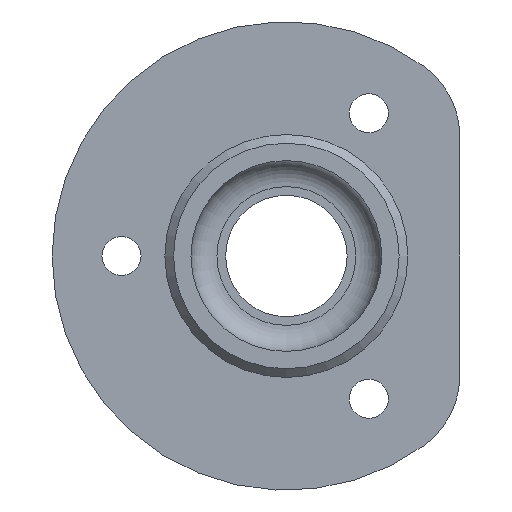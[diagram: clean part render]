
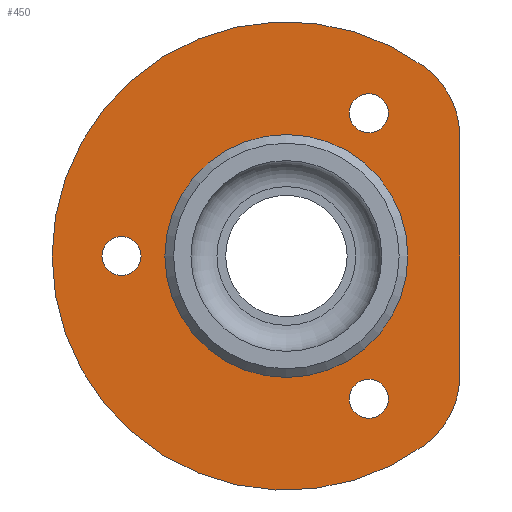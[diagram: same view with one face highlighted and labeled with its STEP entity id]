
A CAD part, left-side view. The second image highlights one B-rep face of the part: STEP entity #450.
In plain terms, the highlighted planar face has unit normal (-1, 0, 0).
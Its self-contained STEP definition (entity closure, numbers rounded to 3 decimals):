
#27=FACE_BOUND('',#157,.T.);
#28=FACE_BOUND('',#158,.T.);
#29=FACE_BOUND('',#159,.T.);
#30=FACE_BOUND('',#160,.T.);
#39=PLANE('',#543);
#51=LINE('',#796,#69);
#69=VECTOR('',#659,10.);
#117=FACE_OUTER_BOUND('',#156,.T.);
#156=EDGE_LOOP('',(#409,#410,#411,#412));
#157=EDGE_LOOP('',(#413));
#158=EDGE_LOOP('',(#414));
#159=EDGE_LOOP('',(#415));
#160=EDGE_LOOP('',(#416));
#179=CIRCLE('',#500,14.);
#190=CIRCLE('',#519,10.);
#191=CIRCLE('',#521,27.);
#192=CIRCLE('',#523,10.);
#195=CIRCLE('',#530,2.25);
#198=CIRCLE('',#536,2.25);
#201=CIRCLE('',#542,2.25);
#220=VERTEX_POINT('',#753);
#227=VERTEX_POINT('',#782);
#228=VERTEX_POINT('',#784);
#229=VERTEX_POINT('',#788);
#230=VERTEX_POINT('',#792);
#233=VERTEX_POINT('',#805);
#236=VERTEX_POINT('',#816);
#239=VERTEX_POINT('',#827);
#262=EDGE_CURVE('',#220,#220,#179,.T.);
#277=EDGE_CURVE('',#227,#228,#190,.T.);
#280=EDGE_CURVE('',#229,#227,#191,.T.);
#282=EDGE_CURVE('',#230,#229,#192,.T.);
#283=EDGE_CURVE('',#230,#228,#51,.T.);
#288=EDGE_CURVE('',#233,#233,#195,.T.);
#293=EDGE_CURVE('',#236,#236,#198,.T.);
#298=EDGE_CURVE('',#239,#239,#201,.T.);
#409=ORIENTED_EDGE('',*,*,#282,.F.);
#410=ORIENTED_EDGE('',*,*,#283,.T.);
#411=ORIENTED_EDGE('',*,*,#277,.F.);
#412=ORIENTED_EDGE('',*,*,#280,.F.);
#413=ORIENTED_EDGE('',*,*,#288,.T.);
#414=ORIENTED_EDGE('',*,*,#293,.T.);
#415=ORIENTED_EDGE('',*,*,#298,.T.);
#416=ORIENTED_EDGE('',*,*,#262,.T.);
#450=ADVANCED_FACE('',(#117,#27,#28,#29,#30),#39,.T.);
#500=AXIS2_PLACEMENT_3D('',#754,#602,#603);
#519=AXIS2_PLACEMENT_3D('',#785,#644,#645);
#521=AXIS2_PLACEMENT_3D('',#790,#650,#651);
#523=AXIS2_PLACEMENT_3D('',#794,#655,#656);
#530=AXIS2_PLACEMENT_3D('',#807,#672,#673);
#536=AXIS2_PLACEMENT_3D('',#818,#686,#687);
#542=AXIS2_PLACEMENT_3D('',#829,#700,#701);
#543=AXIS2_PLACEMENT_3D('',#830,#702,#703);
#602=DIRECTION('center_axis',(1.,0.,0.));
#603=DIRECTION('ref_axis',(0.,0.,-1.));
#644=DIRECTION('center_axis',(1.,0.,0.));
#645=DIRECTION('ref_axis',(0.,-0.891,0.454));
#650=DIRECTION('center_axis',(1.,0.,0.));
#651=DIRECTION('ref_axis',(0.,0.,-1.));
#655=DIRECTION('center_axis',(1.,0.,0.));
#656=DIRECTION('ref_axis',(0.,-0.891,-0.454));
#659=DIRECTION('',(0.,0.,1.));
#672=DIRECTION('center_axis',(1.,0.,0.));
#673=DIRECTION('ref_axis',(0.,-0.866,0.5));
#686=DIRECTION('center_axis',(1.,0.,0.));
#687=DIRECTION('ref_axis',(0.,0.866,0.5));
#700=DIRECTION('center_axis',(1.,0.,0.));
#701=DIRECTION('ref_axis',(0.,0.,-1.));
#702=DIRECTION('center_axis',(-1.,0.,0.));
#703=DIRECTION('ref_axis',(0.,0.,1.));
#753=CARTESIAN_POINT('',(4.,-14.,0.));
#754=CARTESIAN_POINT('Origin',(4.,0.,0.));
#782=CARTESIAN_POINT('',(4.,-15.882,21.835));
#784=CARTESIAN_POINT('',(4.,-20.,13.748));
#785=CARTESIAN_POINT('Origin',(4.,-10.,13.748));
#788=CARTESIAN_POINT('',(4.,-15.882,-21.835));
#790=CARTESIAN_POINT('Origin',(4.,0.,0.));
#792=CARTESIAN_POINT('',(4.,-20.,-13.748));
#794=CARTESIAN_POINT('Origin',(4.,-10.,-13.748));
#796=CARTESIAN_POINT('',(4.,-20.,9.069));
#805=CARTESIAN_POINT('',(4.,-7.551,-17.579));
#807=CARTESIAN_POINT('Origin',(4.,-9.5,-16.454));
#816=CARTESIAN_POINT('',(4.,-11.449,15.329));
#818=CARTESIAN_POINT('Origin',(4.,-9.5,16.454));
#827=CARTESIAN_POINT('',(4.,19.,2.25));
#829=CARTESIAN_POINT('Origin',(4.,19.,0.));
#830=CARTESIAN_POINT('Origin',(4.,27.,0.));
